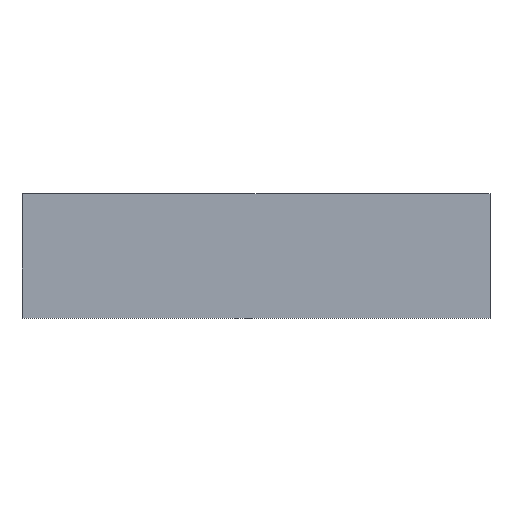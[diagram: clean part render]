
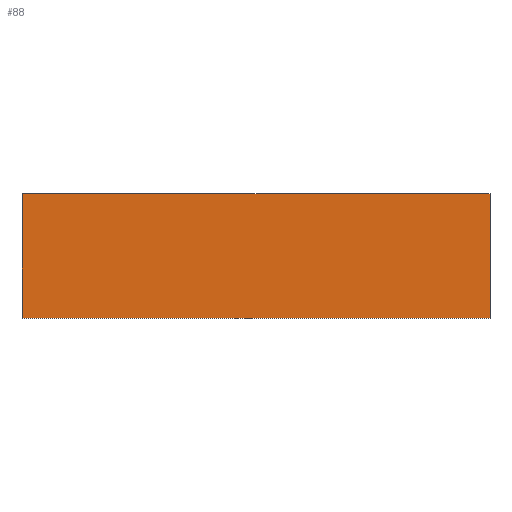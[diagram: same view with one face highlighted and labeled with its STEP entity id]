
A CAD part, top view. The second image highlights one B-rep face of the part: STEP entity #88.
In plain terms, the highlighted planar face has unit normal (0, 0, 1).
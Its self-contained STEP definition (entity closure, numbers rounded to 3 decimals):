
#24 = VERTEX_POINT('',#25);
#25 = CARTESIAN_POINT('',(2.2,47.7,32.7));
#40 = VERTEX_POINT('',#41);
#41 = CARTESIAN_POINT('',(2.2,63.5,32.7));
#47 = EDGE_CURVE('',#24,#40,#48,.T.);
#48 = LINE('',#49,#50);
#49 = CARTESIAN_POINT('',(2.2,47.7,32.7));
#50 = VECTOR('',#51,1.);
#51 = DIRECTION('',(0.,1.,0.));
#70 = EDGE_CURVE('',#24,#71,#73,.T.);
#71 = VERTEX_POINT('',#72);
#72 = CARTESIAN_POINT('',(61.8,47.7,32.7));
#73 = LINE('',#74,#75);
#74 = CARTESIAN_POINT('',(2.2,47.7,32.7));
#75 = VECTOR('',#76,1.);
#76 = DIRECTION('',(1.,0.,0.));
#88 = ADVANCED_FACE('',(#89),#107,.T.);
#89 = FACE_BOUND('',#90,.T.);
#90 = EDGE_LOOP('',(#91,#92,#93,#101));
#91 = ORIENTED_EDGE('',*,*,#47,.F.);
#92 = ORIENTED_EDGE('',*,*,#70,.T.);
#93 = ORIENTED_EDGE('',*,*,#94,.T.);
#94 = EDGE_CURVE('',#71,#95,#97,.T.);
#95 = VERTEX_POINT('',#96);
#96 = CARTESIAN_POINT('',(61.8,63.5,32.7));
#97 = LINE('',#98,#99);
#98 = CARTESIAN_POINT('',(61.8,47.7,32.7));
#99 = VECTOR('',#100,1.);
#100 = DIRECTION('',(0.,1.,0.));
#101 = ORIENTED_EDGE('',*,*,#102,.F.);
#102 = EDGE_CURVE('',#40,#95,#103,.T.);
#103 = LINE('',#104,#105);
#104 = CARTESIAN_POINT('',(2.2,63.5,32.7));
#105 = VECTOR('',#106,1.);
#106 = DIRECTION('',(1.,0.,0.));
#107 = PLANE('',#108);
#108 = AXIS2_PLACEMENT_3D('',#109,#110,#111);
#109 = CARTESIAN_POINT('',(2.2,47.7,32.7));
#110 = DIRECTION('',(0.,0.,1.));
#111 = DIRECTION('',(1.,0.,0.));
